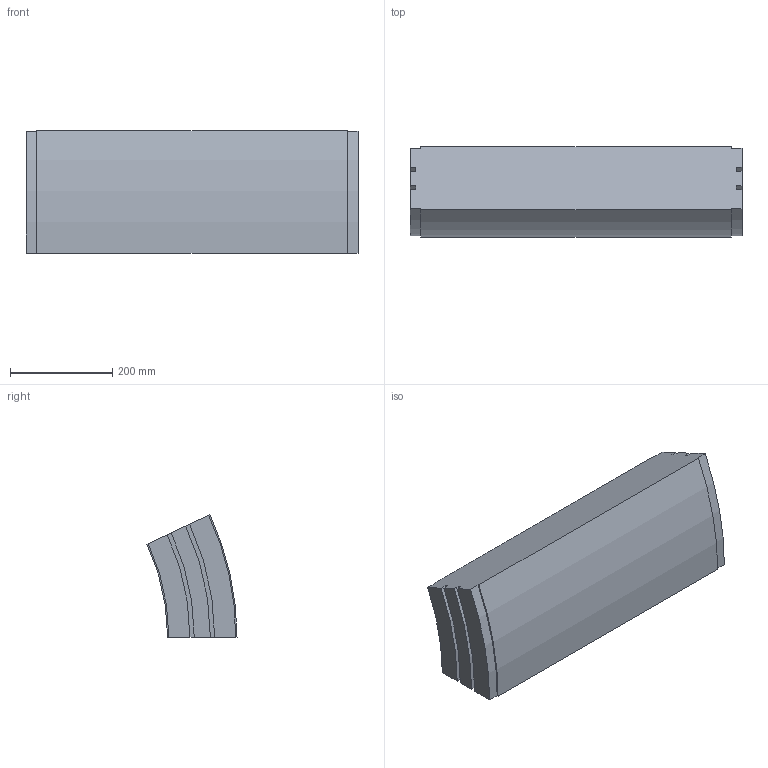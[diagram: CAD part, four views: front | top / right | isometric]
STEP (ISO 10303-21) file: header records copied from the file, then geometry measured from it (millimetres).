
FILE_DESCRIPTION (( 'STEP AP214' ), '1' );
FILE_NAME ('02.150V25.650.N FS-650-MTC-150 Bocht verticaal 25°.STEP', '2013-03-29T13:24:11', ( 'Gebruiker' ), ( '' ), 'SwSTEP 2.0', 'SolidWorks 2012', '' );
FILE_SCHEMA (( 'AUTOMOTIVE_DESIGN' ));
Length unit declared in the file: millimetre
Products named in the file (1): 02.150V25.650.N FS-650-MTC-150 Bocht verticaal 25°
Bounding box: 650.5 x 176.47 x 240.05 mm (x, y, z)
Volume: 19173314.5 mm3; surface area: 538142 mm2
Topology: 1 solids, 1 shells, 30 faces, 84 edges, 56 vertices
Faces by surface type: plane 16, cylinder 14
Entity records: 1010 total; most frequent: DIRECTION 174, CARTESIAN_POINT 171, ORIENTED_EDGE 168, EDGE_CURVE 84, AXIS2_PLACEMENT_3D 59, VERTEX_POINT 56, LINE 56, VECTOR 56
